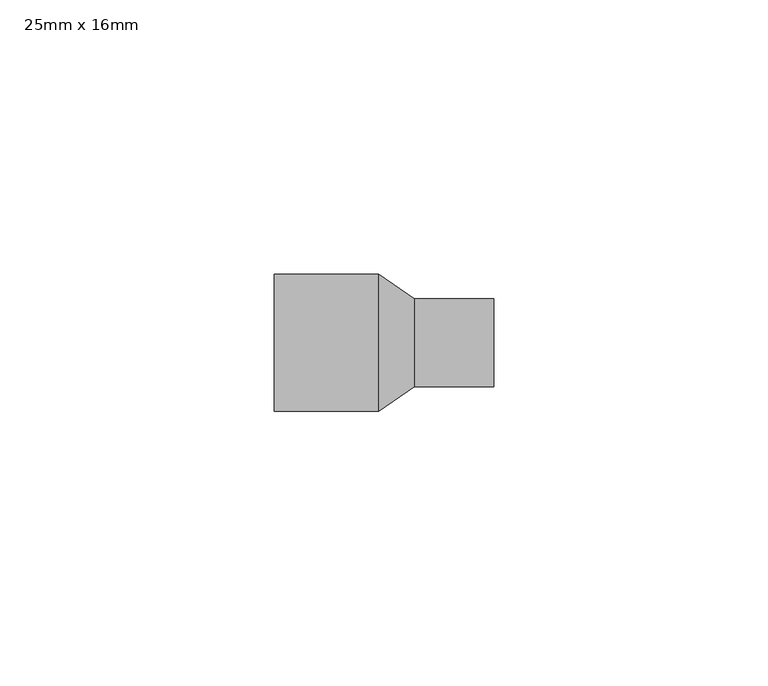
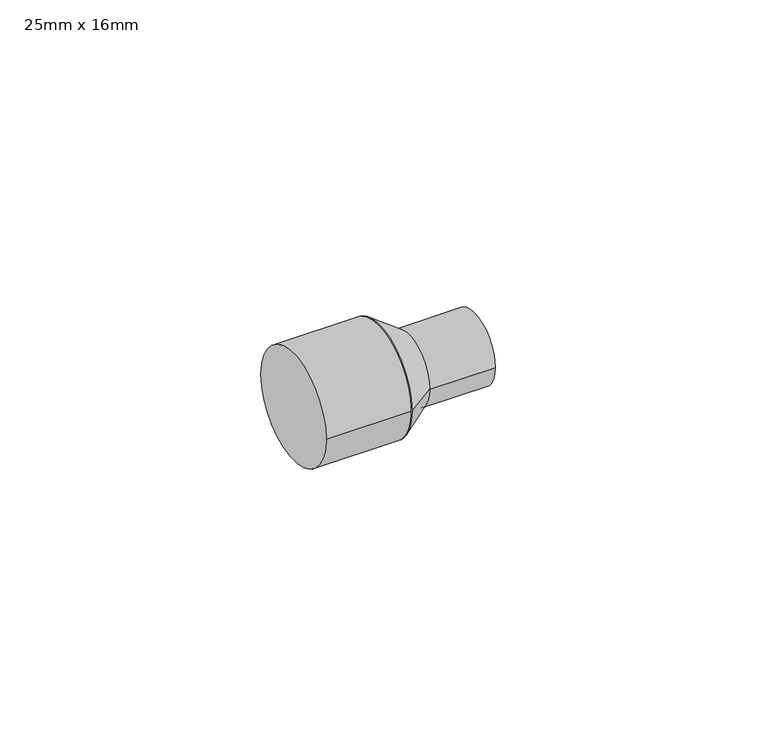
"""IFC4 building model written with IfcOpenShell, lengths in millimetres: pipe fitting geometry, PipeFitting_HTA_CPVC_ReducingBushesLongPattern : 25mm x 16mm."""

from ifc_helpers import new_model, si_unit, point, frame, origin, origin_2d, place, context, project, spatial, polyline, circle_curve, trimmed, segment, composite_curve, outline, extrude, source, transform, mapped, element, save
from ifc_brep_helpers import plane_surface, revolved_surface, advanced_brep


def pipe_fitting_25mm_x_16mm_e228932e(model_context):
    return source(origin(), model_context, "Body", "SolidModel", [
        advanced_brep(
        [(25.5, -8.0, 0.0), (25.5, 8.0, 0.0), (19.0, -12.5, 0.0), (19.0, 12.5, 0.0)],
        [
            (0, 1, circle_curve(frame((25.5, 0.0, 0.0), z_axis=(1.0, 0.0, 0.0), x_axis=(0.0, -1.0, 0.0)), 8.0)),
            (1, 0, circle_curve(frame((25.5, 0.0, 0.0), z_axis=(1.0, 0.0, 0.0), x_axis=(0.0, 1.0, 0.0)), 8.0)),
            (2, 3, circle_curve(frame((19.0, 0.0, 0.0), z_axis=(-1.0, 0.0, 0.0), x_axis=(0.0, 1.0, 0.0)), 12.5)),
            (3, 2, circle_curve(frame((19.0, 0.0, 0.0), z_axis=(-1.0, 0.0, 0.0), x_axis=(0.0, -1.0, 0.0)), 12.5)),
            (3, 1),
            (0, 2),
        ],
        [
            plane_surface(frame((25.5, 0.0, 0.0), z_axis=(1.0, 0.0, 0.0), x_axis=(0.0, 0.0, -1.0))),
            plane_surface(frame((19.0, 0.0, 0.0), z_axis=(-1.0, 0.0, 0.0), x_axis=(0.0, 0.0, -1.0))),
            revolved_surface(polyline([(25.5, -8.000000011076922, 0.0), (19.0, -12.5, 0.0)]), (37.0555556, 0.0, 0.0), (-1.0, 0.0, 0.0)),
            revolved_surface(polyline([(25.5, 8.000000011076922, 0.0), (19.0, 12.5, 0.0)]), (37.0555556, 0.0, 0.0), (-1.0, 0.0, 0.0)),
        ],
        [
            (0, [[1, 2]]),
            (1, [[3, 4]]),
            (2, [[-4, 5, -1, 6]]),
            (3, [[-3, -6, -2, -5]]),
        ],
    ),
        extrude(outline(composite_curve([segment(trimmed(circle_curve(origin_2d(), 8.0), [point((-8.0, 0.0))], [point((8.0, 0.0))], False, "CARTESIAN"), True, "CONTINUOUS"), segment(trimmed(circle_curve(origin_2d(), 8.0), [point((8.0, 0.0))], [point((-8.0, 0.0))], False, "CARTESIAN"), True, "CONTINUOUS")], self_intersect=False)), frame((25.5, 0.0, 0.0), z_axis=(1.0, 0.0, 0.0), x_axis=(0.0, 1.0, 0.0)), (0.0, 0.0, 1.0), 14.5),
        extrude(outline(composite_curve([segment(trimmed(circle_curve(origin_2d(), 12.5), [point((-12.5, 0.0))], [point((12.5, 0.0))], False, "CARTESIAN"), True, "CONTINUOUS"), segment(trimmed(circle_curve(origin_2d(), 12.5), [point((12.5, 0.0))], [point((-12.5, 0.0))], False, "CARTESIAN"), True, "CONTINUOUS")], self_intersect=False)), frame((0.0, 0.0, 0.0), z_axis=(1.0, 0.0, 0.0), x_axis=(0.0, 1.0, 0.0)), (0.0, 0.0, 1.0), 19.0),
    ])


if __name__ == "__main__":
    model = new_model("IFC4")
    model_context = context("Model", 3, world=origin())
    ifc_project = project(units=[si_unit("LENGTHUNIT", "METRE", prefix="MILLI")], contexts=[model_context])
    site = spatial("IfcSite", under=ifc_project)
    building = spatial("IfcBuilding", under=site)
    placement = place(None, origin())
    pipe_fitting_25mm_x_16mm_shape = pipe_fitting_25mm_x_16mm_e228932e(model_context)
    element("IfcPipeFitting", 1, ObjectType="PipeFitting_HTA_CPVC_ReducingBushesLongPattern : 25mm x 16mm", at=placement, inside=building, context=model_context, shape_type="MappedRepresentation", body=[
        mapped(pipe_fitting_25mm_x_16mm_shape, transform((0.0, 0.0, 0.0), x_axis=(1.0, 0.0, 0.0), y_axis=(0.0, 1.0, 0.0), z_axis=(0.0, 0.0, 1.0))),
    ])
    save(model, "model.ifc")
